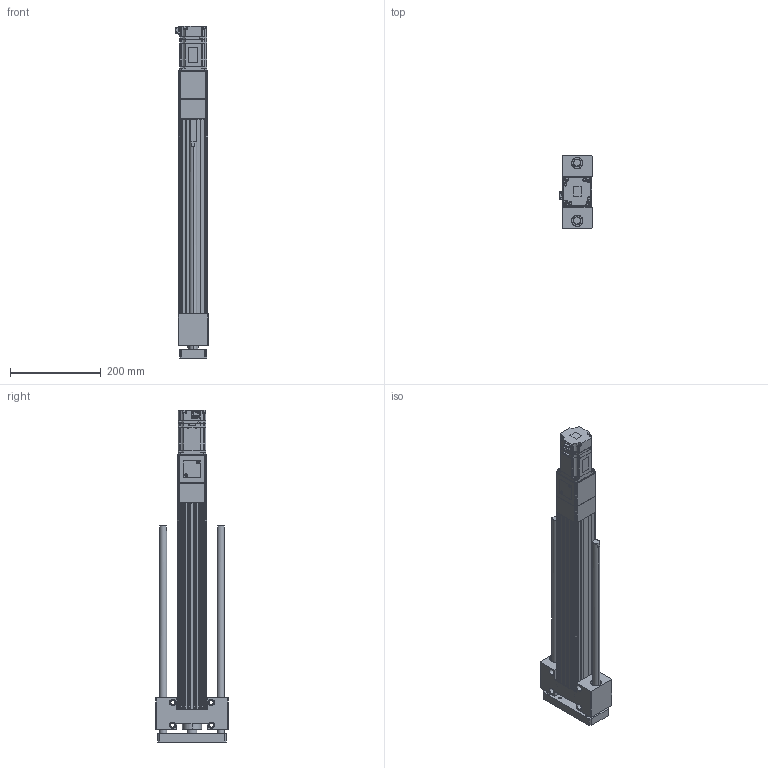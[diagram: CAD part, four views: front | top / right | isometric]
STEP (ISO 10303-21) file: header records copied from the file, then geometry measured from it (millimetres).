
FILE_DESCRIPTION (( 'STEP AP203' ), '1' );
FILE_NAME ('ANS065R-HS350-05(10)(20)-W40.STEP', '2019-03-01T09:20:04', ( 'user' ), ( '' ), 'SwSTEP 2.0', 'SolidWorks 2013', '' );
FILE_SCHEMA (( 'CONFIG_CONTROL_DESIGN' ));
Length unit declared in the file: millimetre
Products named in the file (4): ANS065R HS350 VER2; ANS065 ROD ST350 H; sgmjv_04a_a21; ANS065R-HS350-05(10)(20)-W40
Assembly tree (3 placements, depth 2):
  ANS065R-HS350-05(10)(20)-W40
    ANS065R HS350 VER2
    ANS065 ROD ST350 H
    sgmjv_04a_a21
Bounding box: 72.3 x 160 x 730.6 mm (x, y, z)
Volume: 2495037 mm3; surface area: 546697.6 mm2
Topology: 3 solids, 7 shells, 1236 faces, 3237 edges, 2087 vertices
Faces by surface type: plane 696, cylinder 430, cone 110
Entity records: 38235 total; most frequent: CARTESIAN_POINT 6780, DIRECTION 6559, ORIENTED_EDGE 6418, EDGE_CURVE 3209, VECTOR 2199, LINE 2199, AXIS2_PLACEMENT_3D 2180, VERTEX_POINT 2087
